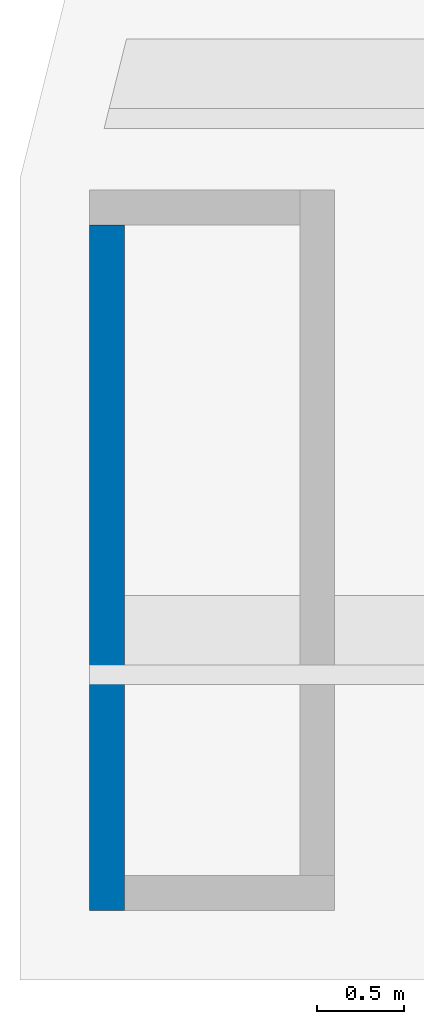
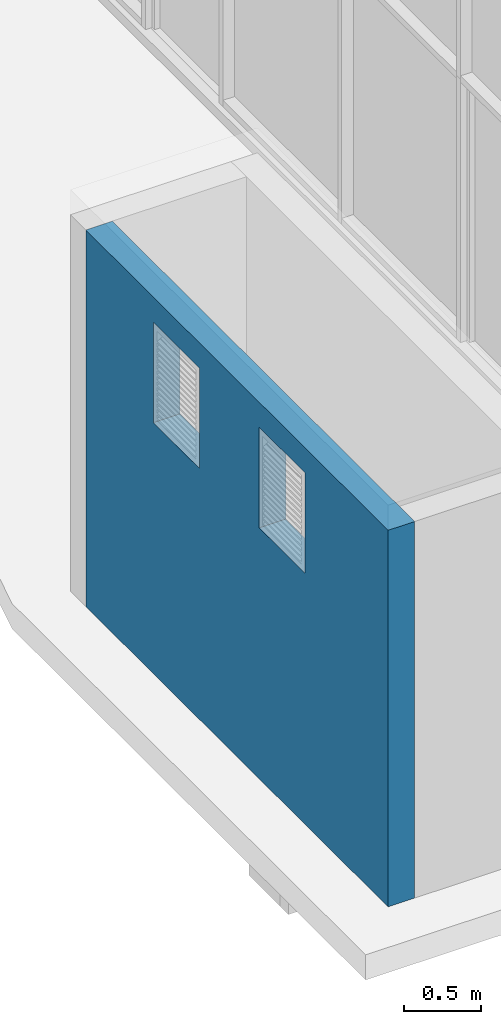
# One storey, part 31 of 100: 1 wall, 2 openings.
"""IFC2X3 building model written with IfcOpenShell, lengths in millimetres."""

from ifc_helpers import new_model, entity, si_unit, converted_unit, derived_unit, direction, frame, frame_2d, origin, place, context, subcontext, project, spatial, rectangle, extrude, material, layer, layer_set, layer_usage, type_object, element, save


model = new_model("IFC2X3")

# Units and contexts
model_context = context("Model", 3, precision=0.01, world=origin(), true_north=direction((6.123031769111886e-17, 1.0)))
body_context = subcontext(model_context, "Body", "Model", "MODEL_VIEW")
ifc_project = project(units=[si_unit("LENGTHUNIT", "METRE", prefix="MILLI"), si_unit("AREAUNIT", "SQUARE_METRE"), si_unit("VOLUMEUNIT", "CUBIC_METRE"), converted_unit("PLANEANGLEUNIT", "DEGREE", entity("IfcRatioMeasure", 0.017453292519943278), si_unit("PLANEANGLEUNIT", "RADIAN"), dimensions=[0, 0, 0, 0, 0, 0, 0]), si_unit("MASSUNIT", "GRAM", prefix="KILO"), derived_unit("MASSDENSITYUNIT", [(si_unit("MASSUNIT", "GRAM", prefix="KILO"), 1), (si_unit("LENGTHUNIT", "METRE"), -3)]), derived_unit("MOMENTOFINERTIAUNIT", [(si_unit("LENGTHUNIT", "METRE"), 4)]), si_unit("TIMEUNIT", "SECOND"), si_unit("FREQUENCYUNIT", "HERTZ"), si_unit("THERMODYNAMICTEMPERATUREUNIT", "DEGREE_CELSIUS"), derived_unit("THERMALTRANSMITTANCEUNIT", [(si_unit("MASSUNIT", "GRAM", prefix="KILO"), 1), (si_unit("THERMODYNAMICTEMPERATUREUNIT", "KELVIN"), -1), (si_unit("TIMEUNIT", "SECOND"), -3)]), derived_unit("VOLUMETRICFLOWRATEUNIT", [(si_unit("LENGTHUNIT", "METRE"), 3), (si_unit("TIMEUNIT", "SECOND"), -1)]), derived_unit("MASSFLOWRATEUNIT", [(si_unit("MASSUNIT", "GRAM", prefix="KILO"), 1), (si_unit("TIMEUNIT", "SECOND"), -1)]), derived_unit("ROTATIONALFREQUENCYUNIT", [(si_unit("TIMEUNIT", "SECOND"), -1)]), si_unit("ELECTRICCURRENTUNIT", "AMPERE"), si_unit("ELECTRICVOLTAGEUNIT", "VOLT"), si_unit("POWERUNIT", "WATT"), si_unit("FORCEUNIT", "NEWTON", prefix="KILO"), si_unit("ILLUMINANCEUNIT", "LUX"), si_unit("LUMINOUSFLUXUNIT", "LUMEN"), si_unit("LUMINOUSINTENSITYUNIT", "CANDELA"), derived_unit("USERDEFINED", [(si_unit("MASSUNIT", "GRAM", prefix="KILO"), -1), (si_unit("LENGTHUNIT", "METRE"), -2), (si_unit("TIMEUNIT", "SECOND"), 3), (si_unit("LUMINOUSFLUXUNIT", "LUMEN"), 1)]), derived_unit("SOUNDPOWERUNIT", [(si_unit("MASSUNIT", "GRAM", prefix="KILO"), 1), (si_unit("LENGTHUNIT", "METRE"), 2), (si_unit("TIMEUNIT", "SECOND"), -3)]), derived_unit("SOUNDPRESSUREUNIT", [(si_unit("MASSUNIT", "GRAM", prefix="KILO"), 1), (si_unit("LENGTHUNIT", "METRE"), -1), (si_unit("TIMEUNIT", "SECOND"), -2)]), derived_unit("LINEARVELOCITYUNIT", [(si_unit("LENGTHUNIT", "METRE"), 1), (si_unit("TIMEUNIT", "SECOND"), -1)]), si_unit("PRESSUREUNIT", "PASCAL"), derived_unit("USERDEFINED", [(si_unit("LENGTHUNIT", "METRE"), -2), (si_unit("MASSUNIT", "GRAM", prefix="KILO"), 1), (si_unit("TIMEUNIT", "SECOND"), -2)]), derived_unit("LINEARFORCEUNIT", [(si_unit("MASSUNIT", "GRAM", prefix="KILO"), 1), (si_unit("LENGTHUNIT", "METRE"), 1), (si_unit("TIMEUNIT", "SECOND"), -2), (si_unit("LENGTHUNIT", "METRE"), -1)]), derived_unit("PLANARFORCEUNIT", [(si_unit("MASSUNIT", "GRAM", prefix="KILO"), 1), (si_unit("LENGTHUNIT", "METRE"), 1), (si_unit("TIMEUNIT", "SECOND"), -2), (si_unit("LENGTHUNIT", "METRE"), -2)])], contexts=[model_context])

# Site, building, storey
site_placement = place(None, frame((-14167.972527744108, -657.2125860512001, 0.0)))
site = spatial("IfcSite", under=ifc_project, at=site_placement, Name="Default", CompositionType="ELEMENT")
building_placement = place(site_placement, origin())
building = spatial("IfcBuilding", under=site, at=building_placement, Name="Sample Building", CompositionType="ELEMENT")
storey_placement = place(building_placement, origin())
storey = spatial("IfcBuildingStorey", under=building, at=storey_placement, Name="지상 1층", CompositionType="ELEMENT", Elevation=0.0)

# Wall, openings
ifc_material = material(Name="KBIMS-콘크리트")
ifc_layer = layer(ifc_material, 200.0)
ifc_layer_set = layer_set([ifc_layer], Name="기본 벽:WA111-철근콘크리트구조 벽 200mm_CW1")
ifc_layer_usage = layer_usage(ifc_layer_set, "AXIS2", "NEGATIVE", 100.0)
wall_type = type_object("IfcWallType", Name="기본 벽:WA111-철근콘크리트구조 벽 200mm_CW1", PredefinedType="STANDARD", material=ifc_layer_set)
wall_placement = place(storey_placement, frame((10567.972417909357, -542.7877350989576, 0.0), z_axis=(0.0, 0.0, 1.0), x_axis=(0.0, 1.0, 0.0)))
wall = element("IfcWallStandardCase", 1, at=wall_placement, inside=storey, type_object=wall_type, material=ifc_layer_usage, Name="기본 벽:WA111-철근콘크리트구조 벽 200mm_CW1", ObjectType="기본 벽:WA111-철근콘크리트구조 벽 200mm_CW1", context=body_context, shape_type="SweptSolid", body=[
    extrude(rectangle(XDim=3945.7015557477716, YDim=200.0, at=frame_2d((1972.8507778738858, 1.0871303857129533e-12), x_axis=(-1.0, 0.0))), origin(), (0.0, 0.0, 1.0), 2999.999999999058),
])
opening_1_placement = place(wall_placement, frame((2463.801037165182, -100.0, 2000.0)))
element("IfcOpeningElement", 2, at=opening_1_placement, cuts=wall, Name="WD733-그릴창(알루미늄):WD733-그릴창(알루미늄)_600x800mm:1", ObjectType="Opening", context=body_context, shape_type="SweptSolid", body=[
    extrude(rectangle(XDim=800.0000000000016, YDim=600.0000000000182, at=frame_2d((400.00000000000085, 300.0000000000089), x_axis=(-1.0, 0.0))), frame((0.0, 0.0, 0.0), z_axis=(0.0, 1.0, 0.0), x_axis=(0.0, 0.0, 1.0)), (0.0, 0.0, 1.0), 200.0),
])
opening_2_placement = place(wall_placement, frame((1081.9005185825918, -100.0, 2000.0)))
element("IfcOpeningElement", 3, at=opening_2_placement, cuts=wall, Name="WD733-그릴창(알루미늄):WD733-그릴창(알루미늄)_600x800mm:1", ObjectType="Opening", context=body_context, shape_type="SweptSolid", body=[
    extrude(rectangle(XDim=800.0000000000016, YDim=600.0000000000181, at=frame_2d((400.00000000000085, 300.00000000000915), x_axis=(-1.0, 0.0))), frame((0.0, 0.0, 0.0), z_axis=(0.0, 1.0, 0.0), x_axis=(0.0, 0.0, 1.0)), (0.0, 0.0, 1.0), 200.0),
])

save(model, "model.ifc")
